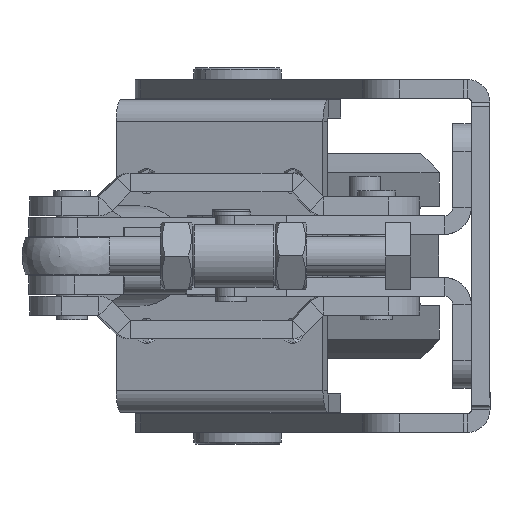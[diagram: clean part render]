
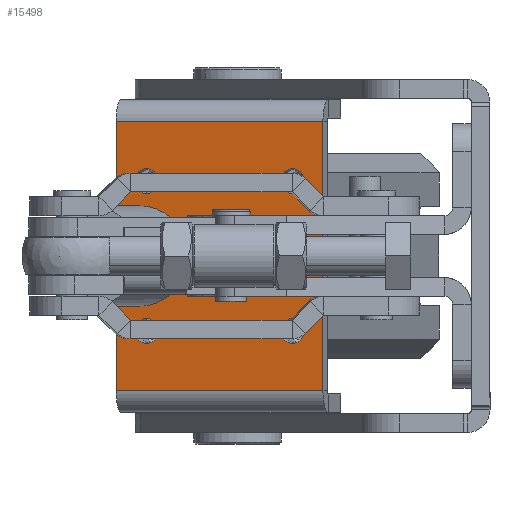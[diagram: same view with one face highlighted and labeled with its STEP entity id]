
A CAD part, left-side view. The second image highlights one B-rep face of the part: STEP entity #15498.
In plain terms, the highlighted planar face has unit normal (-0.972, 0.235, 0) as drawn and (0, -1, 0) by its records, which use the part's own axes.
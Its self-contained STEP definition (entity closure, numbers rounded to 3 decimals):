
#80 = EDGE_LOOP ( 'NONE', ( #16338, #16903 ) ) ;
#208 = CIRCLE ( 'NONE', #7584, 3.15 ) ;
#578 = DIRECTION ( 'NONE',  ( 1., 0., 0. ) ) ;
#615 = CIRCLE ( 'NONE', #4090, 3.15 ) ;
#955 = LINE ( 'NONE', #16066, #9284 ) ;
#1095 = DIRECTION ( 'NONE',  ( 0., 1., 0. ) ) ;
#1191 = CIRCLE ( 'NONE', #13275, 10. ) ;
#1237 = DIRECTION ( 'NONE',  ( 0., 1., 0. ) ) ;
#1242 = CARTESIAN_POINT ( 'NONE',  ( 19., -4.75, 19. ) ) ;
#1524 = EDGE_CURVE ( 'NONE', #14325, #13704, #955, .T. ) ;
#1585 = EDGE_CURVE ( 'NONE', #8742, #1837, #3827, .T. ) ;
#1600 = DIRECTION ( 'NONE',  ( 0., 1., 0. ) ) ;
#1677 = CARTESIAN_POINT ( 'NONE',  ( -19., -4.75, 15.85 ) ) ;
#1837 = VERTEX_POINT ( 'NONE', #9243 ) ;
#1856 = CARTESIAN_POINT ( 'NONE',  ( -19., -4.75, -19. ) ) ;
#2212 = EDGE_CURVE ( 'NONE', #17599, #18144, #13207, .T. ) ;
#2266 = FACE_BOUND ( 'NONE', #5515, .T. ) ;
#2362 = CARTESIAN_POINT ( 'NONE',  ( 19., -4.75, -19. ) ) ;
#2425 = CARTESIAN_POINT ( 'NONE',  ( 19., -4.75, -22.15 ) ) ;
#2441 = ORIENTED_EDGE ( 'NONE', *, *, #1524, .F. ) ;
#2648 = DIRECTION ( 'NONE',  ( 0., 0., 1. ) ) ;
#2731 = ORIENTED_EDGE ( 'NONE', *, *, #3706, .F. ) ;
#2994 = EDGE_CURVE ( 'NONE', #13362, #7007, #13863, .T. ) ;
#3036 = ORIENTED_EDGE ( 'NONE', *, *, #2212, .T. ) ;
#3069 = CARTESIAN_POINT ( 'NONE',  ( 19., -4.75, 15.85 ) ) ;
#3155 = FACE_OUTER_BOUND ( 'NONE', #3408, .T. ) ;
#3189 = VERTEX_POINT ( 'NONE', #6525 ) ;
#3258 = DIRECTION ( 'NONE',  ( 0., 0., 1. ) ) ;
#3408 = EDGE_LOOP ( 'NONE', ( #2441, #2731, #14112, #10485 ) ) ;
#3515 = ORIENTED_EDGE ( 'NONE', *, *, #8473, .T. ) ;
#3706 = EDGE_CURVE ( 'NONE', #13362, #14325, #17744, .T. ) ;
#3781 = DIRECTION ( 'NONE',  ( 0., 0., -1. ) ) ;
#3827 = CIRCLE ( 'NONE', #6417, 3.15 ) ;
#3913 = CARTESIAN_POINT ( 'NONE',  ( 0., -4.75, 0. ) ) ;
#4018 = CARTESIAN_POINT ( 'NONE',  ( -19., -4.75, -15.85 ) ) ;
#4090 = AXIS2_PLACEMENT_3D ( 'NONE', #9996, #1600, #11393 ) ;
#4420 = ORIENTED_EDGE ( 'NONE', *, *, #5966, .T. ) ;
#4512 = VERTEX_POINT ( 'NONE', #3069 ) ;
#4824 = CARTESIAN_POINT ( 'NONE',  ( -52.617, -4.75, 27. ) ) ;
#5237 = EDGE_LOOP ( 'NONE', ( #13940, #7543 ) ) ;
#5317 = DIRECTION ( 'NONE',  ( 0., 0., 1. ) ) ;
#5323 = CIRCLE ( 'NONE', #13956, 10. ) ;
#5515 = EDGE_LOOP ( 'NONE', ( #3036, #4420 ) ) ;
#5716 = CARTESIAN_POINT ( 'NONE',  ( -19., -4.75, -22.15 ) ) ;
#5813 = CARTESIAN_POINT ( 'NONE',  ( 19., -4.75, 19. ) ) ;
#5918 = CARTESIAN_POINT ( 'NONE',  ( -19., -4.75, 19. ) ) ;
#5966 = EDGE_CURVE ( 'NONE', #18144, #17599, #208, .T. ) ;
#6002 = FACE_BOUND ( 'NONE', #15662, .T. ) ;
#6114 = VECTOR ( 'NONE', #6212, 1000. ) ;
#6136 = CIRCLE ( 'NONE', #14228, 3.15 ) ;
#6212 = DIRECTION ( 'NONE',  ( -1., 0., 0. ) ) ;
#6417 = AXIS2_PLACEMENT_3D ( 'NONE', #16180, #7816, #17610 ) ;
#6525 = CARTESIAN_POINT ( 'NONE',  ( 0., -4.75, 10. ) ) ;
#6666 = PLANE ( 'NONE',  #13258 ) ;
#6960 = CARTESIAN_POINT ( 'NONE',  ( 0., -4.75, 0. ) ) ;
#7007 = VERTEX_POINT ( 'NONE', #13625 ) ;
#7010 = CARTESIAN_POINT ( 'NONE',  ( 34., -4.75, 27. ) ) ;
#7084 = EDGE_CURVE ( 'NONE', #13704, #7007, #13571, .T. ) ;
#7198 = DIRECTION ( 'NONE',  ( 0., 0., 1. ) ) ;
#7318 = DIRECTION ( 'NONE',  ( 0., 0., -1. ) ) ;
#7400 = ORIENTED_EDGE ( 'NONE', *, *, #8190, .T. ) ;
#7543 = ORIENTED_EDGE ( 'NONE', *, *, #11854, .T. ) ;
#7554 = CIRCLE ( 'NONE', #18058, 3.15 ) ;
#7584 = AXIS2_PLACEMENT_3D ( 'NONE', #5918, #15707, #7318 ) ;
#7816 = DIRECTION ( 'NONE',  ( 0., 1., 0. ) ) ;
#8190 = EDGE_CURVE ( 'NONE', #3189, #8882, #1191, .T. ) ;
#8363 = DIRECTION ( 'NONE',  ( 0., 0., 1. ) ) ;
#8473 = EDGE_CURVE ( 'NONE', #4512, #17655, #14976, .T. ) ;
#8742 = VERTEX_POINT ( 'NONE', #2425 ) ;
#8882 = VERTEX_POINT ( 'NONE', #13951 ) ;
#9243 = CARTESIAN_POINT ( 'NONE',  ( 19., -4.75, -15.85 ) ) ;
#9284 = VECTOR ( 'NONE', #10450, 1000. ) ;
#9628 = CARTESIAN_POINT ( 'NONE',  ( -19., -4.75, 19. ) ) ;
#9731 = FACE_BOUND ( 'NONE', #5237, .T. ) ;
#9996 = CARTESIAN_POINT ( 'NONE',  ( -19., -4.75, -19. ) ) ;
#10297 = VECTOR ( 'NONE', #578, 1000. ) ;
#10450 = DIRECTION ( 'NONE',  ( 0., 0., -1. ) ) ;
#10485 = ORIENTED_EDGE ( 'NONE', *, *, #7084, .F. ) ;
#10523 = EDGE_CURVE ( 'NONE', #8882, #3189, #5323, .T. ) ;
#10852 = CARTESIAN_POINT ( 'NONE',  ( 34., -4.75, -27. ) ) ;
#10900 = DIRECTION ( 'NONE',  ( 0., 0., 1. ) ) ;
#11030 = DIRECTION ( 'NONE',  ( 0., 0., -1. ) ) ;
#11034 = DIRECTION ( 'NONE',  ( 0., 1., 0. ) ) ;
#11321 = EDGE_CURVE ( 'NONE', #11696, #11832, #11814, .T. ) ;
#11393 = DIRECTION ( 'NONE',  ( 0., 0., 1. ) ) ;
#11656 = DIRECTION ( 'NONE',  ( 0., 1., 0. ) ) ;
#11696 = VERTEX_POINT ( 'NONE', #4018 ) ;
#11791 = CARTESIAN_POINT ( 'NONE',  ( -19., -4.75, 22.15 ) ) ;
#11814 = CIRCLE ( 'NONE', #14751, 3.15 ) ;
#11832 = VERTEX_POINT ( 'NONE', #5716 ) ;
#11854 = EDGE_CURVE ( 'NONE', #11832, #11696, #615, .T. ) ;
#11904 = CARTESIAN_POINT ( 'NONE',  ( 19., -4.75, 22.15 ) ) ;
#12171 = DIRECTION ( 'NONE',  ( 0., 1., 0. ) ) ;
#12247 = CARTESIAN_POINT ( 'NONE',  ( 52.617, -4.75, -24. ) ) ;
#12593 = ORIENTED_EDGE ( 'NONE', *, *, #10523, .T. ) ;
#13207 = CIRCLE ( 'NONE', #14175, 3.15 ) ;
#13258 = AXIS2_PLACEMENT_3D ( 'NONE', #12247, #1095, #10900 ) ;
#13275 = AXIS2_PLACEMENT_3D ( 'NONE', #3913, #13708, #5317 ) ;
#13362 = VERTEX_POINT ( 'NONE', #17153 ) ;
#13446 = FACE_BOUND ( 'NONE', #13838, .T. ) ;
#13571 = LINE ( 'NONE', #17345, #6114 ) ;
#13625 = CARTESIAN_POINT ( 'NONE',  ( -34., -4.75, -27. ) ) ;
#13704 = VERTEX_POINT ( 'NONE', #10852 ) ;
#13708 = DIRECTION ( 'NONE',  ( 0., 1., 0. ) ) ;
#13838 = EDGE_LOOP ( 'NONE', ( #7400, #12593 ) ) ;
#13863 = LINE ( 'NONE', #14473, #17116 ) ;
#13909 = FACE_BOUND ( 'NONE', #80, .T. ) ;
#13940 = ORIENTED_EDGE ( 'NONE', *, *, #11321, .T. ) ;
#13951 = CARTESIAN_POINT ( 'NONE',  ( 0., -4.75, -10. ) ) ;
#13956 = AXIS2_PLACEMENT_3D ( 'NONE', #6960, #16751, #8363 ) ;
#14112 = ORIENTED_EDGE ( 'NONE', *, *, #2994, .T. ) ;
#14175 = AXIS2_PLACEMENT_3D ( 'NONE', #9628, #1237, #11030 ) ;
#14228 = AXIS2_PLACEMENT_3D ( 'NONE', #2362, #12171, #3781 ) ;
#14325 = VERTEX_POINT ( 'NONE', #7010 ) ;
#14473 = CARTESIAN_POINT ( 'NONE',  ( -34., -4.75, -24. ) ) ;
#14751 = AXIS2_PLACEMENT_3D ( 'NONE', #1856, #11656, #3258 ) ;
#14796 = AXIS2_PLACEMENT_3D ( 'NONE', #5813, #15593, #7198 ) ;
#14874 = EDGE_CURVE ( 'NONE', #17655, #4512, #7554, .T. ) ;
#14976 = CIRCLE ( 'NONE', #14796, 3.15 ) ;
#15498 = ADVANCED_FACE ( 'NONE', ( #3155, #9731, #13909, #13446, #6002, #2266 ), #6666, .F. ) ;
#15593 = DIRECTION ( 'NONE',  ( 0., 1., 0. ) ) ;
#15662 = EDGE_LOOP ( 'NONE', ( #17683, #3515 ) ) ;
#15707 = DIRECTION ( 'NONE',  ( 0., 1., 0. ) ) ;
#16066 = CARTESIAN_POINT ( 'NONE',  ( 34., -4.75, -24. ) ) ;
#16180 = CARTESIAN_POINT ( 'NONE',  ( 19., -4.75, -19. ) ) ;
#16338 = ORIENTED_EDGE ( 'NONE', *, *, #17771, .T. ) ;
#16751 = DIRECTION ( 'NONE',  ( 0., 1., 0. ) ) ;
#16903 = ORIENTED_EDGE ( 'NONE', *, *, #1585, .T. ) ;
#17116 = VECTOR ( 'NONE', #17292, 1000. ) ;
#17153 = CARTESIAN_POINT ( 'NONE',  ( -34., -4.75, 27. ) ) ;
#17292 = DIRECTION ( 'NONE',  ( 0., 0., -1. ) ) ;
#17345 = CARTESIAN_POINT ( 'NONE',  ( 52.617, -4.75, -27. ) ) ;
#17599 = VERTEX_POINT ( 'NONE', #11791 ) ;
#17610 = DIRECTION ( 'NONE',  ( 0., 0., -1. ) ) ;
#17655 = VERTEX_POINT ( 'NONE', #11904 ) ;
#17683 = ORIENTED_EDGE ( 'NONE', *, *, #14874, .T. ) ;
#17744 = LINE ( 'NONE', #4824, #10297 ) ;
#17771 = EDGE_CURVE ( 'NONE', #1837, #8742, #6136, .T. ) ;
#18058 = AXIS2_PLACEMENT_3D ( 'NONE', #1242, #11034, #2648 ) ;
#18144 = VERTEX_POINT ( 'NONE', #1677 ) ;
